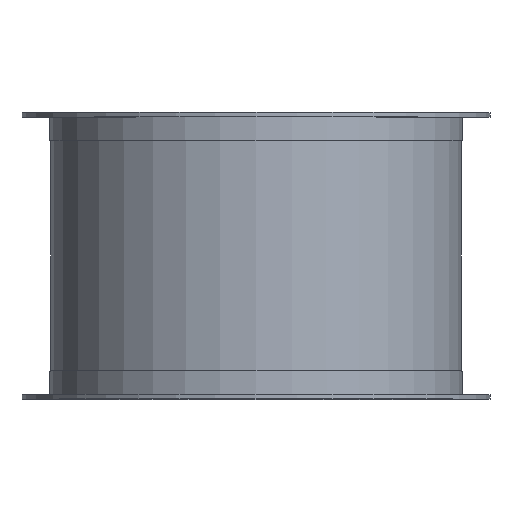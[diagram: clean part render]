
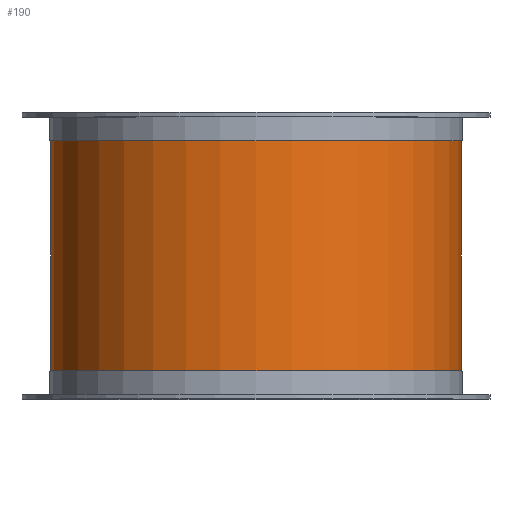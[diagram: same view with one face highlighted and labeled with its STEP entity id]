
A CAD part, top view. The second image highlights one B-rep face of the part: STEP entity #190.
In plain terms, the highlighted cylindrical face has radius 182 mm (diameter 364 mm), a partial arc.
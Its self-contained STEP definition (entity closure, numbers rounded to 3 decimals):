
#190=ADVANCED_FACE('',(#414),#415,.T.);
#414=FACE_OUTER_BOUND('',#629,.T.);
#415=CYLINDRICAL_SURFACE('',#630,182.0);
#629=EDGE_LOOP('',(#1137,#1138,#1139,#1140));
#630=AXIS2_PLACEMENT_3D('',#1141,#1142,#1143);
#1137=ORIENTED_EDGE('',*,*,#1145,.T.);
#1138=ORIENTED_EDGE('',*,*,#1302,.T.);
#1139=ORIENTED_EDGE('',*,*,#1147,.T.);
#1140=ORIENTED_EDGE('',*,*,#1341,.T.);
#1141=CARTESIAN_POINT('',(0.0,127.0,0.0));
#1142=DIRECTION('',(-0.0,1.0,0.0));
#1143=DIRECTION('',(1.0,0.0,0.0));
#1145=EDGE_CURVE('',#1345,#1346,#1347,.T.);
#1147=EDGE_CURVE('',#1350,#1348,#1351,.T.);
#1302=EDGE_CURVE('',#1346,#1350,#1598,.T.);
#1341=EDGE_CURVE('',#1348,#1345,#1637,.T.);
#1345=VERTEX_POINT('',#1641);
#1346=VERTEX_POINT('',#1642);
#1347=LINE('',#1643,#1644);
#1348=VERTEX_POINT('',#1645);
#1350=VERTEX_POINT('',#1647);
#1351=LINE('',#1648,#1649);
#1598=CIRCLE('',#1942,182.0);
#1637=CIRCLE('',#1981,182.0);
#1641=CARTESIAN_POINT('',(182.0,25.0,0.));
#1642=CARTESIAN_POINT('',(182.0,229.0,0.));
#1643=CARTESIAN_POINT('',(182.0,127.0,0.));
#1644=VECTOR('',#1984,1.0);
#1645=CARTESIAN_POINT('',(-182.0,25.0,0.));
#1647=CARTESIAN_POINT('',(-182.0,229.0,0.));
#1648=CARTESIAN_POINT('',(-182.0,127.0,0.));
#1649=VECTOR('',#1988,1.0);
#1942=AXIS2_PLACEMENT_3D('',#2245,#2246,#2247);
#1981=AXIS2_PLACEMENT_3D('',#2317,#2318,#2319);
#1984=DIRECTION('',(0.0,1.0,0.0));
#1988=DIRECTION('',(-0.0,-1.0,-0.0));
#2245=CARTESIAN_POINT('',(0.0,229.0,0.0));
#2246=DIRECTION('',(0.0,-1.0,0.));
#2247=DIRECTION('',(1.0,0.0,0.0));
#2317=CARTESIAN_POINT('',(0.0,25.0,0.0));
#2318=DIRECTION('',(-0.0,1.0,0.0));
#2319=DIRECTION('',(1.0,0.0,0.0));
